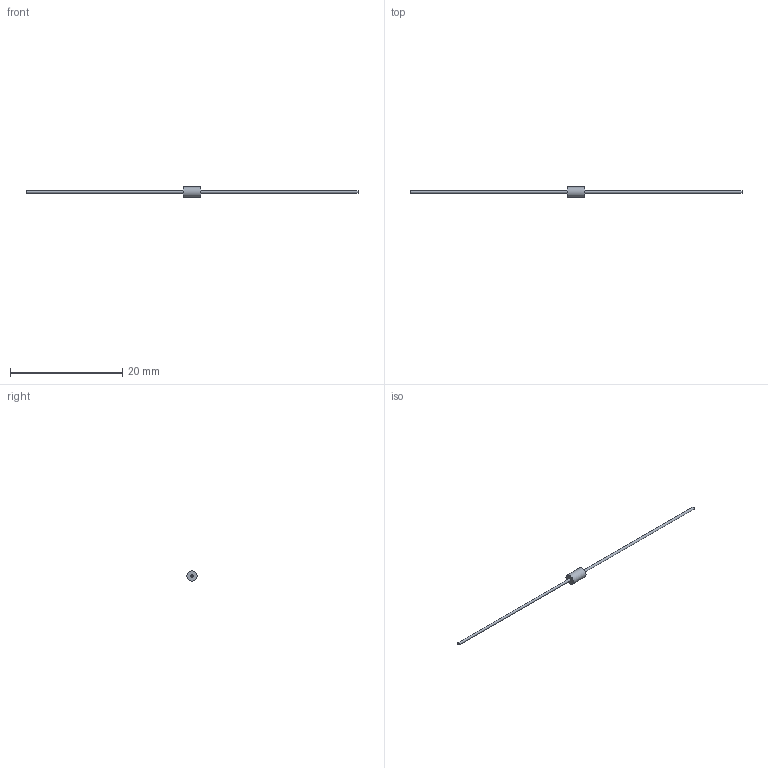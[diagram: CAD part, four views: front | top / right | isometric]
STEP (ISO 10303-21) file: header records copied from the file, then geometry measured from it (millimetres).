
FILE_DESCRIPTION(/* description */ (''),/* implementation_level */ '2;1');
FILE_NAME(/* name */ 'C:\Users\mulla\Documents\SEI Models\ASRM\ASRM14.stp',/* time_stamp */ '2019-06-06T16:46:04-04:00',/* author */ ('mulla'),/* organization */ (''),/* preprocessor_version */ 'ST-DEVELOPER v16.1',/* originating_system */ 'Autodesk Inventor 2016',/* authorisation */ '');
FILE_SCHEMA (('AUTOMOTIVE_DESIGN { 1 0 10303 214 3 1 1 }'));
Length unit declared in the file: millimetre
Products named in the file (1): ASRM14
Bounding box: 59.2 x 1.85 x 1.85 mm (x, y, z)
Volume: 17.5 mm3; surface area: 103.8 mm2
Topology: 3 solids, 3 shells, 9 faces, 9 edges, 6 vertices
Faces by surface type: plane 6, cylinder 3
Full cylindrical faces by diameter (mm): 0.45 x2, 1.85 x1
Entity records: 176 total; most frequent: DIRECTION 32, CARTESIAN_POINT 22, AXIS2_PLACEMENT_3D 16, EDGE_LOOP 12, ORIENTED_EDGE 12, FACE_OUTER_BOUND 9, ADVANCED_FACE 9, PLANE 6
